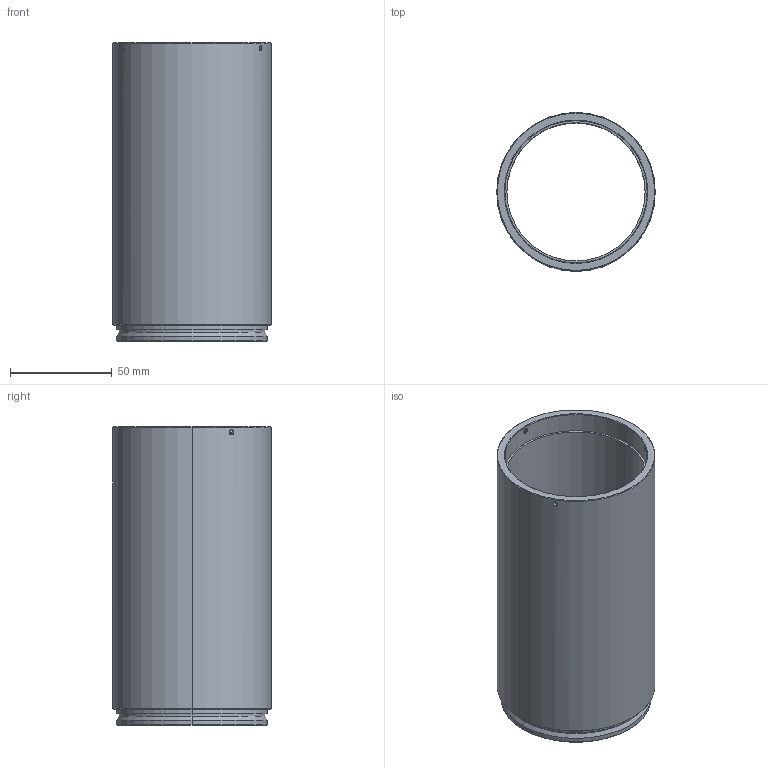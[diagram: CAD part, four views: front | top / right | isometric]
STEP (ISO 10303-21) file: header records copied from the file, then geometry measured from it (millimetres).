
FILE_DESCRIPTION (( 'STEP AP214' ), '1' );
FILE_NAME ('ML-13538-076-EXR-V70V74.STEP', '2026-02-25T00:57:28', ( '' ), ( '' ), 'SwSTEP 2.0', 'SolidWorks 2025', '' );
FILE_SCHEMA (( 'AUTOMOTIVE_DESIGN' ));
Length unit declared in the file: millimetre
Products named in the file (1): ML-13538-076-EXR-V70V74
Bounding box: 78 x 78 x 146.93 mm (x, y, z)
Volume: 161779.2 mm3; surface area: 69789.4 mm2
Topology: 1 solids, 1 shells, 86 faces, 202 edges, 127 vertices
Faces by surface type: plane 32, cone 30, cylinder 24
Entity records: 2659 total; most frequent: CARTESIAN_POINT 638, DIRECTION 434, ORIENTED_EDGE 392, EDGE_CURVE 196, AXIS2_PLACEMENT_3D 163, VERTEX_POINT 127, LINE 108, VECTOR 108
